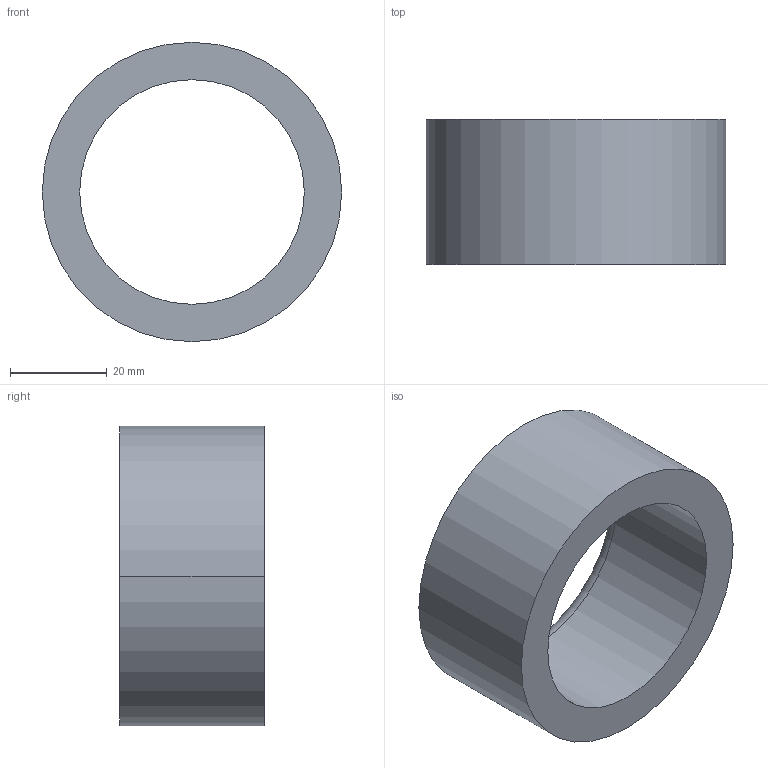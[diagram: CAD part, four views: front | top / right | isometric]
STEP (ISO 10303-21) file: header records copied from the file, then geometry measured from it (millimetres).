
FILE_DESCRIPTION (( 'STEP AP203' ), '1' );
FILE_NAME ('30800.WPP62L46.5.step', '2019-01-23T22:58:03', ( '' ), ( '' ), 'SwSTEP 2.0', 'SolidWorks 2017', '' );
FILE_SCHEMA (( 'CONFIG_CONTROL_DESIGN' ));
Length unit declared in the file: millimetre
Products named in the file (1): 30800.WPP62L46.5
Bounding box: 62 x 30 x 62 mm (x, y, z)
Volume: 39228.4 mm3; surface area: 12653.6 mm2
Topology: 1 solids, 1 shells, 8 faces, 16 edges, 10 vertices
Faces by surface type: cylinder 4, torus 2, plane 2
Entity records: 297 total; most frequent: DIRECTION 46, CARTESIAN_POINT 35, ORIENTED_EDGE 32, AXIS2_PLACEMENT_3D 21, EDGE_CURVE 16, CIRCLE 12, EDGE_LOOP 10, VERTEX_POINT 10
